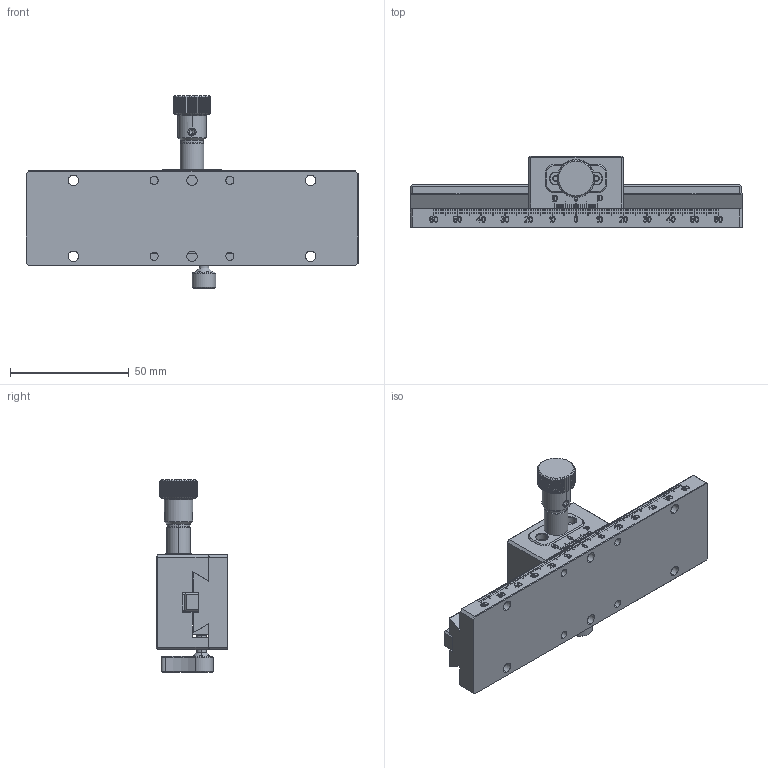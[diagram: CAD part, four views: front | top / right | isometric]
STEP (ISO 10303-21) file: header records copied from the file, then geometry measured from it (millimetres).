
FILE_DESCRIPTION((''),'2;1');
FILE_NAME('ASSY-40-ST120_ASM','2021-12-23T18:39:22',('windows10'),(''),'CREO PARAMETRIC BY PTC INC, 2018260','CREO PARAMETRIC BY PTC INC, 2018260','');
FILE_SCHEMA(('CONFIG_CONTROL_DESIGN'));
Products named in the file (14): BOTTOM-40-140-M; RACK-8-6-140; ASSY-BOTTOM-40-140-M_ASM; TOP-40-40-F-NEW; HOLDER-PINION-16D3; PINION-4-41; WHASHER-9D6-4D1-1D2; HANDLE-16-19; ASSY-HANDLE-16-51D8_ASM; ASSY-TOP-40-40-F_ASM; STOPPER-A-NEW; LEVER-NEW; ASSY-STOPPER-NEW_ASM; ASSY-40-ST120_ASM
Assembly tree (13 placements, depth 4):
  ASSY-40-ST120_ASM
    ASSY-BOTTOM-40-140-M_ASM
      BOTTOM-40-140-M
      RACK-8-6-140
    ASSY-TOP-40-40-F_ASM
      TOP-40-40-F-NEW
      ASSY-HANDLE-16-51D8_ASM
        HOLDER-PINION-16D3
        PINION-4-41
        WHASHER-9D6-4D1-1D2
        HANDLE-16-19
    ASSY-STOPPER-NEW_ASM
      STOPPER-A-NEW
      LEVER-NEW
Bounding box: 140 x 30 x 81.37 mm (x, y, z)
Volume: 97202.5 mm3; surface area: 37686.6 mm2
Topology: 9 solids, 9 shells, 2529 faces, 6696 edges, 4402 vertices
Faces by surface type: plane 2174, cylinder 223, cone 122, torus 6, bspline 4
Entity records: 78306 total; most frequent: CARTESIAN_POINT 15059, ORIENTED_EDGE 13380, DIRECTION 12148, EDGE_CURVE 6690, VECTOR 5888, LINE 5888, VERTEX_POINT 4402, AXIS2_PLACEMENT_3D 3130
